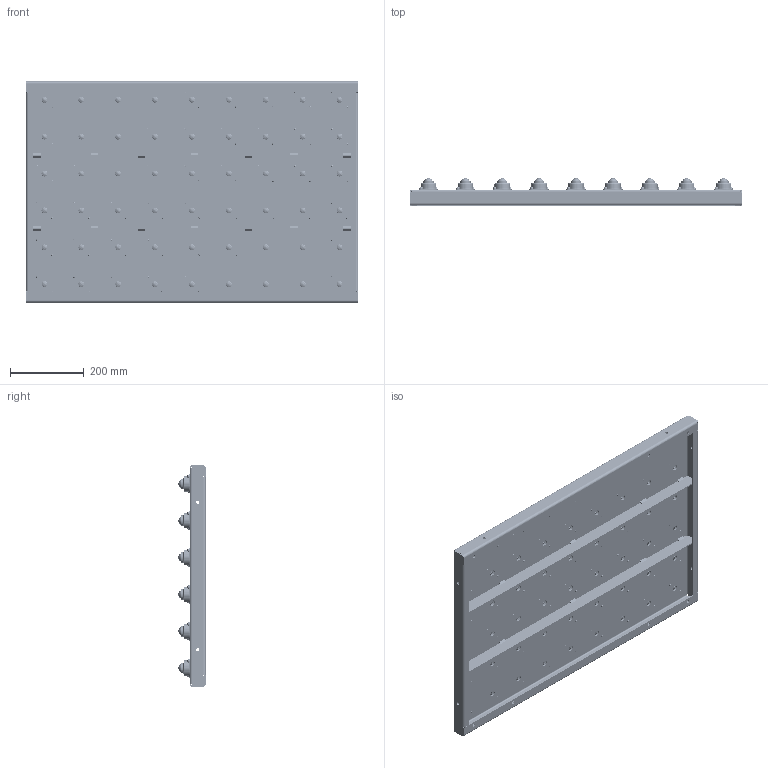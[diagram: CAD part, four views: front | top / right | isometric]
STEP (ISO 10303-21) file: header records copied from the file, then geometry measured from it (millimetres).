
FILE_DESCRIPTION(/* description */ ('','CAx-IF Rec.Pracs.---Representation and Presentation of Product Manufacturing Information (PMI)---4.0---2014-10-13'),/* implementation_level */ '2;1');
FILE_NAME(/* name */ 'IBT-600x900-100.stp',/* time_stamp */ '2023-11-14T19:13:49+09:00',/* author */ ('torikawa'),/* organization */ (''),/* preprocessor_version */ 'ST-DEVELOPER v19.2',/* originating_system */ 'Autodesk Inventor 2023',/* authorisation */ '');
FILE_SCHEMA (('AP242_MANAGED_MODEL_BASED_3D_ENGINEERING_MIM_LF { 1 0 10303 442 1 1 4 }'));
Length unit declared in the file: millimetre
Products named in the file (7): T010-0029; P130-0005; P130-0005_1; P132-0007; P132-0005; IM-25; PSET5-8
Assembly tree (167 placements, depth 3):
  T010-0029
    P130-0005
      P130-0005_1
      P132-0007
      P132-0005  x2
    IM-25  x54
    PSET5-8  x108
Bounding box: 900 x 73.92 x 600 mm (x, y, z)
Volume: 3500121.9 mm3; surface area: 2305470.1 mm2
Topology: 183 solids, 183 shells, 7476 faces, 18374 edges, 12074 vertices
Faces by surface type: plane 3582, cylinder 2382, torus 864, sphere 324, cone 324
Full cylindrical faces by diameter (mm): 3 x54, 4.134 x108, 4.509 x108, 5 x108, 5.3 x108, 5.5 x108, 9 x16, 10 x108, 16 x54, 28.4 x54, 37.5 x54, 40.5 x54, 41.2 x54, 42.5 x54
Entity records: 18490 total; most frequent: CARTESIAN_POINT 3642, DIRECTION 3145, ORIENTED_EDGE 2488, AXIS2_PLACEMENT_3D 1254, EDGE_CURVE 1244, EDGE_LOOP 867, VERTEX_POINT 815, LINE 637
